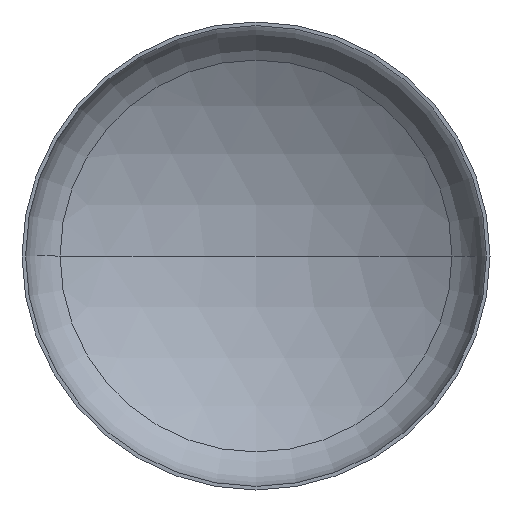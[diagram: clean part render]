
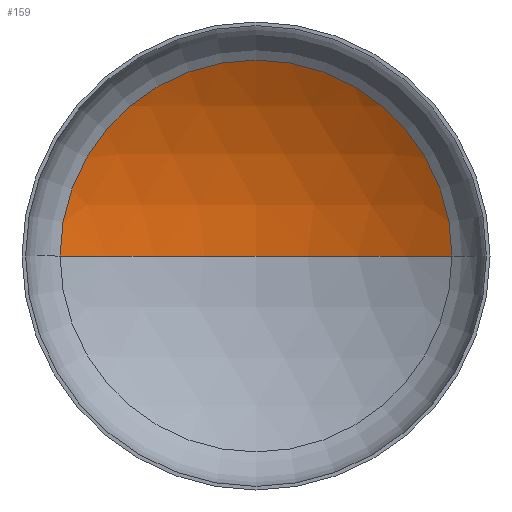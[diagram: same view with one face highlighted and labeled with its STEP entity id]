
A CAD part, front view. The second image highlights one B-rep face of the part: STEP entity #159.
In plain terms, the highlighted spherical face has radius 3600 mm.
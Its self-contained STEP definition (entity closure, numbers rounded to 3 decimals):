
#1 = AXIS2_PLACEMENT_3D ( 'NONE', #74, #80, #291 ) ;
#16 = AXIS2_PLACEMENT_3D ( 'NONE', #315, #160, #342 ) ;
#21 = VERTEX_POINT ( 'NONE', #278 ) ;
#22 = AXIS2_PLACEMENT_3D ( 'NONE', #93, #100, #106 ) ;
#30 = EDGE_LOOP ( 'NONE', ( #191, #163, #121 ) ) ;
#45 = AXIS2_PLACEMENT_3D ( 'NONE', #298, #180, #211 ) ;
#74 = CARTESIAN_POINT ( 'NONE',  ( 0., -2365.606, 0. ) ) ;
#80 = DIRECTION ( 'NONE',  ( 0., 0., 1. ) ) ;
#93 = CARTESIAN_POINT ( 'NONE',  ( 0., 702.271, 0. ) ) ;
#96 = SPHERICAL_SURFACE ( 'NONE', #45, 3600. ) ;
#100 = DIRECTION ( 'NONE',  ( 0., -1., 0. ) ) ;
#106 = DIRECTION ( 'NONE',  ( 1., 0., 0. ) ) ;
#121 = ORIENTED_EDGE ( 'NONE', *, *, #319, .T. ) ;
#157 = VERTEX_POINT ( 'NONE', #190 ) ;
#159 = ADVANCED_FACE ( 'NONE', ( #396 ), #96, .F. ) ;
#160 = DIRECTION ( 'NONE',  ( 0., 0., -1. ) ) ;
#163 = ORIENTED_EDGE ( 'NONE', *, *, #327, .T. ) ;
#174 = VERTEX_POINT ( 'NONE', #189 ) ;
#180 = DIRECTION ( 'NONE',  ( 0., 0., -1. ) ) ;
#189 = CARTESIAN_POINT ( 'NONE',  ( -1883.649, 702.271, 0. ) ) ;
#190 = CARTESIAN_POINT ( 'NONE',  ( 0., 1234.394, 0. ) ) ;
#191 = ORIENTED_EDGE ( 'NONE', *, *, #371, .F. ) ;
#211 = DIRECTION ( 'NONE',  ( -1., 0., 0. ) ) ;
#218 = CIRCLE ( 'NONE', #1, 3600. ) ;
#278 = CARTESIAN_POINT ( 'NONE',  ( 1883.649, 702.271, 0. ) ) ;
#287 = CIRCLE ( 'NONE', #22, 1883.649 ) ;
#291 = DIRECTION ( 'NONE',  ( 1., 0., 0. ) ) ;
#298 = CARTESIAN_POINT ( 'NONE',  ( 0., -2365.606, 0. ) ) ;
#315 = CARTESIAN_POINT ( 'NONE',  ( 0., -2365.606, 0. ) ) ;
#319 = EDGE_CURVE ( 'NONE', #21, #174, #287, .T. ) ;
#327 = EDGE_CURVE ( 'NONE', #157, #21, #362, .T. ) ;
#342 = DIRECTION ( 'NONE',  ( -1., 0., 0. ) ) ;
#362 = CIRCLE ( 'NONE', #16, 3600. ) ;
#371 = EDGE_CURVE ( 'NONE', #157, #174, #218, .T. ) ;
#396 = FACE_OUTER_BOUND ( 'NONE', #30, .T. ) ;
